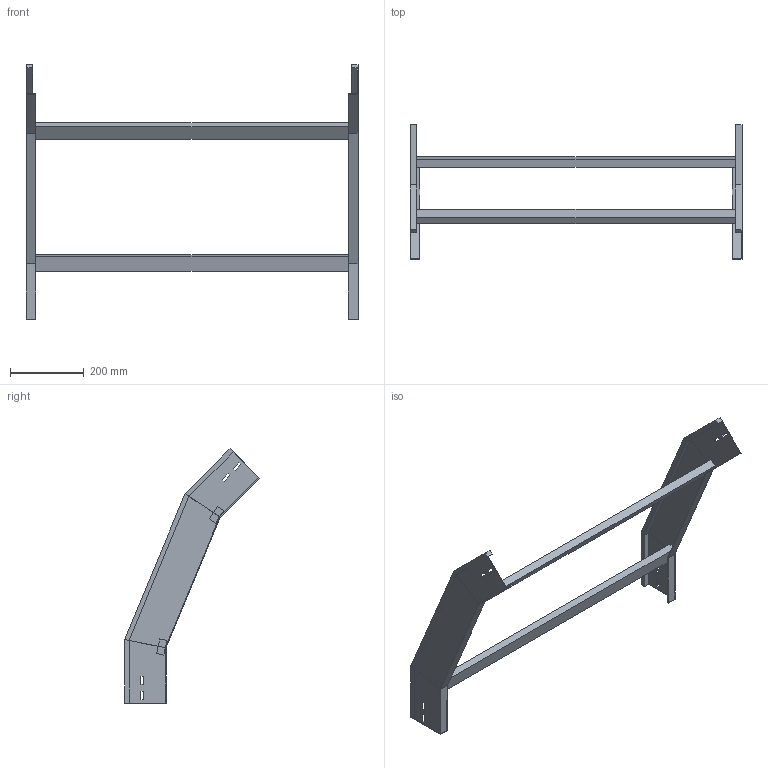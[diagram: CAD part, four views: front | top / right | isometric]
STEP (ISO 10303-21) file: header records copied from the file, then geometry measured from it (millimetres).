
FILE_DESCRIPTION (( 'STEP AP214' ), '1' );
FILE_NAME ('34B5J900.step', '2025-02-21T14:53:01', ( '' ), ( '' ), 'SwSTEP 2.0', 'SolidWorks 2023', '' );
FILE_SCHEMA (( 'AUTOMOTIVE_DESIGN' ));
Length unit declared in the file: millimetre
Products named in the file (3): LONGH.DISCESA_45°_H112.5_R500; TRAVERSINO_900; 34B5J900
Assembly tree (5 placements, depth 2):
  34B5J900
    LONGH.DISCESA_45°_H112.5_R500  x2
    TRAVERSINO_900  x3
Bounding box: 900 x 365.13 x 689.46 mm (x, y, z)
Volume: 2865496.3 mm3; surface area: 781266.6 mm2
Topology: 5 solids, 5 shells, 102 faces, 244 edges, 152 vertices
Faces by surface type: plane 102
Entity records: 1480 total; most frequent: CARTESIAN_POINT 244, ORIENTED_EDGE 232, DIRECTION 228, EDGE_CURVE 116, LINE 116, VECTOR 116, VERTEX_POINT 72, AXIS2_PLACEMENT_3D 56
